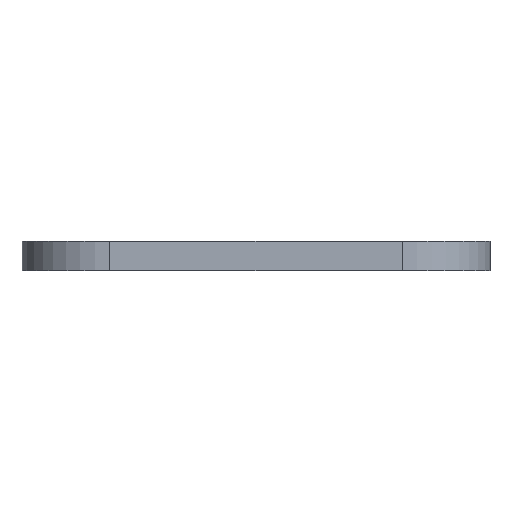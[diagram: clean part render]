
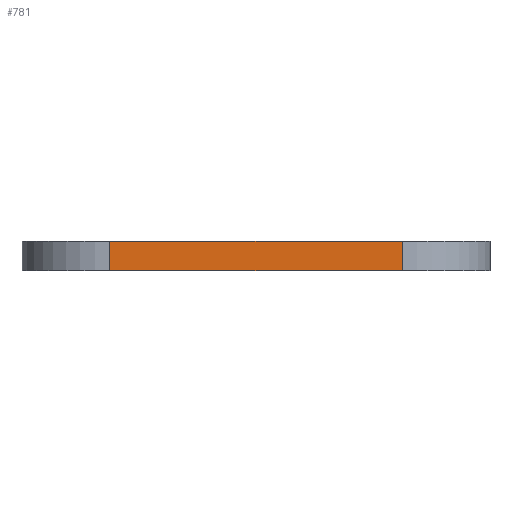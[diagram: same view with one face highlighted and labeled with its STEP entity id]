
A CAD part, left-side view. The second image highlights one B-rep face of the part: STEP entity #781.
In plain terms, the highlighted planar face has unit normal (-1, 0, 0).
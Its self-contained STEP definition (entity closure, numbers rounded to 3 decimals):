
#86 = ORIENTED_EDGE ( 'NONE', *, *, #725, .T. ) ;
#87 = ORIENTED_EDGE ( 'NONE', *, *, #729, .T. ) ;
#88 = ORIENTED_EDGE ( 'NONE', *, *, #723, .F. ) ;
#89 = ORIENTED_EDGE ( 'NONE', *, *, #732, .T. ) ;
#98 = VERTEX_POINT ( 'NONE', #255 ) ;
#131 = VERTEX_POINT ( 'NONE', #251 ) ;
#140 = VERTEX_POINT ( 'NONE', #264 ) ;
#141 = VERTEX_POINT ( 'NONE', #263 ) ;
#180 = EDGE_LOOP ( 'NONE', ( #86, #87, #88, #89 ) ) ;
#251 = CARTESIAN_POINT ( 'NONE',  ( -31.5, 12.5, 0. ) ) ;
#255 = CARTESIAN_POINT ( 'NONE',  ( -31.5, -12.5, 0. ) ) ;
#263 = CARTESIAN_POINT ( 'NONE',  ( -31.5, 12.5, -2.5 ) ) ;
#264 = CARTESIAN_POINT ( 'NONE',  ( -31.5, -12.5, -2.5 ) ) ;
#280 = CARTESIAN_POINT ( 'NONE',  ( -31.5, -12.5, -2.5 ) ) ;
#290 = DIRECTION ( 'NONE',  ( 0., -1., 0. ) ) ;
#293 = CARTESIAN_POINT ( 'NONE',  ( -31.5, -20., 0. ) ) ;
#295 = DIRECTION ( 'NONE',  ( 0., 0., -1. ) ) ;
#297 = CARTESIAN_POINT ( 'NONE',  ( -31.5, 12.5, -2.5 ) ) ;
#317 = DIRECTION ( 'NONE',  ( 0., 0., 1. ) ) ;
#331 = DIRECTION ( 'NONE',  ( 0., -1., 0. ) ) ;
#335 = CARTESIAN_POINT ( 'NONE',  ( -31.5, -20., -2.5 ) ) ;
#472 = CARTESIAN_POINT ( 'NONE',  ( -31.5, -20., -2.5 ) ) ;
#474 = PLANE ( 'NONE',  #641 ) ;
#476 = DIRECTION ( 'NONE',  ( -1., 0., 0. ) ) ;
#477 = DIRECTION ( 'NONE',  ( 0., -1., 0. ) ) ;
#503 = LINE ( 'NONE', #293, #509 ) ;
#509 = VECTOR ( 'NONE', #331, 1000. ) ;
#510 = VECTOR ( 'NONE', #290, 1000. ) ;
#520 = VECTOR ( 'NONE', #317, 1000. ) ;
#521 = VECTOR ( 'NONE', #295, 1000. ) ;
#522 = LINE ( 'NONE', #335, #510 ) ;
#537 = LINE ( 'NONE', #280, #520 ) ;
#543 = LINE ( 'NONE', #297, #521 ) ;
#581 = FACE_OUTER_BOUND ( 'NONE', #180, .T. ) ;
#641 = AXIS2_PLACEMENT_3D ( 'NONE', #472, #476, #477 ) ;
#723 = EDGE_CURVE ( 'NONE', #131, #98, #503, .T. ) ;
#725 = EDGE_CURVE ( 'NONE', #141, #140, #522, .T. ) ;
#729 = EDGE_CURVE ( 'NONE', #140, #98, #537, .T. ) ;
#732 = EDGE_CURVE ( 'NONE', #131, #141, #543, .T. ) ;
#781 = ADVANCED_FACE ( 'NONE', ( #581 ), #474, .T. ) ;
